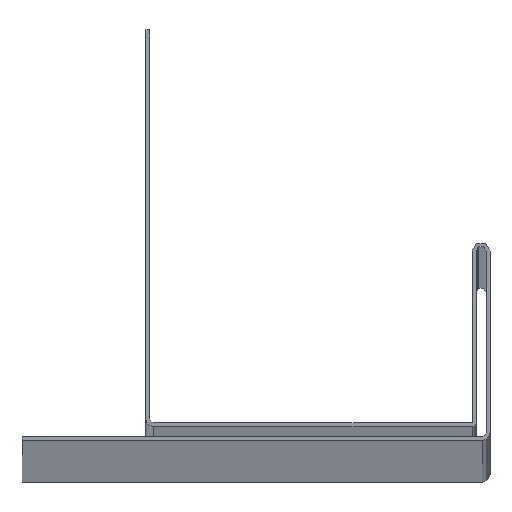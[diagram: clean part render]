
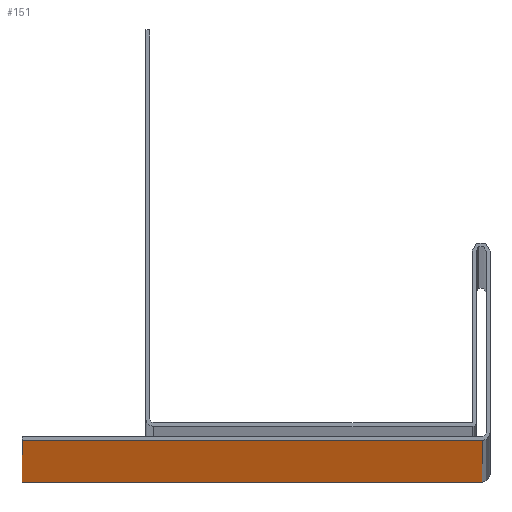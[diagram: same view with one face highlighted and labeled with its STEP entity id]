
A CAD part, top view. The second image highlights one B-rep face of the part: STEP entity #151.
In plain terms, the highlighted planar face has unit normal (0, -1, 0).
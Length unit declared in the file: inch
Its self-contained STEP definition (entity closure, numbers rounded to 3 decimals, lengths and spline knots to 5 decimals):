
#50 = ORIENTED_EDGE ( 'NONE', *, *, #524, .T. ) ;
#90 = CARTESIAN_POINT ( 'NONE',  ( -0.625, -0.07, 120. ) ) ;
#115 = CARTESIAN_POINT ( 'NONE',  ( -0.625, -0.07, 0. ) ) ;
#146 = CARTESIAN_POINT ( 'NONE',  ( 1.695, -0.07, 120. ) ) ;
#151 = ADVANCED_FACE ( 'NONE', ( #484 ), #404, .T. ) ;
#154 = DIRECTION ( 'NONE',  ( 1., 0., 0. ) ) ;
#156 = VERTEX_POINT ( 'NONE', #477 ) ;
#163 = DIRECTION ( 'NONE',  ( -1., 0., 0. ) ) ;
#171 = VECTOR ( 'NONE', #704, 39.37008 ) ;
#178 = EDGE_CURVE ( 'NONE', #675, #503, #629, .T. ) ;
#194 = ORIENTED_EDGE ( 'NONE', *, *, #178, .T. ) ;
#210 = ORIENTED_EDGE ( 'NONE', *, *, #654, .F. ) ;
#239 = DIRECTION ( 'NONE',  ( 0., 0., -1. ) ) ;
#242 = AXIS2_PLACEMENT_3D ( 'NONE', #146, #776, #154 ) ;
#283 = CARTESIAN_POINT ( 'NONE',  ( 1.695, -0.07, 120. ) ) ;
#321 = CARTESIAN_POINT ( 'NONE',  ( 1.695, -0.07, 0. ) ) ;
#390 = EDGE_CURVE ( 'NONE', #532, #503, #630, .T. ) ;
#404 = PLANE ( 'NONE',  #242 ) ;
#410 = LINE ( 'NONE', #735, #722 ) ;
#477 = CARTESIAN_POINT ( 'NONE',  ( 1.695, -0.07, 120. ) ) ;
#484 = FACE_OUTER_BOUND ( 'NONE', #817, .T. ) ;
#503 = VERTEX_POINT ( 'NONE', #115 ) ;
#524 = EDGE_CURVE ( 'NONE', #156, #675, #410, .T. ) ;
#532 = VERTEX_POINT ( 'NONE', #720 ) ;
#540 = ORIENTED_EDGE ( 'NONE', *, *, #390, .F. ) ;
#629 = LINE ( 'NONE', #90, #800 ) ;
#630 = LINE ( 'NONE', #321, #171 ) ;
#651 = DIRECTION ( 'NONE',  ( 0., 0., -1. ) ) ;
#654 = EDGE_CURVE ( 'NONE', #156, #532, #673, .T. ) ;
#673 = LINE ( 'NONE', #283, #824 ) ;
#675 = VERTEX_POINT ( 'NONE', #718 ) ;
#704 = DIRECTION ( 'NONE',  ( -1., 0., 0. ) ) ;
#718 = CARTESIAN_POINT ( 'NONE',  ( -0.625, -0.07, 120. ) ) ;
#720 = CARTESIAN_POINT ( 'NONE',  ( 1.695, -0.07, 0. ) ) ;
#722 = VECTOR ( 'NONE', #163, 39.37008 ) ;
#735 = CARTESIAN_POINT ( 'NONE',  ( 1.695, -0.07, 120. ) ) ;
#776 = DIRECTION ( 'NONE',  ( 0., -1., 0. ) ) ;
#800 = VECTOR ( 'NONE', #651, 39.37008 ) ;
#817 = EDGE_LOOP ( 'NONE', ( #540, #210, #50, #194 ) ) ;
#824 = VECTOR ( 'NONE', #239, 39.37008 ) ;
